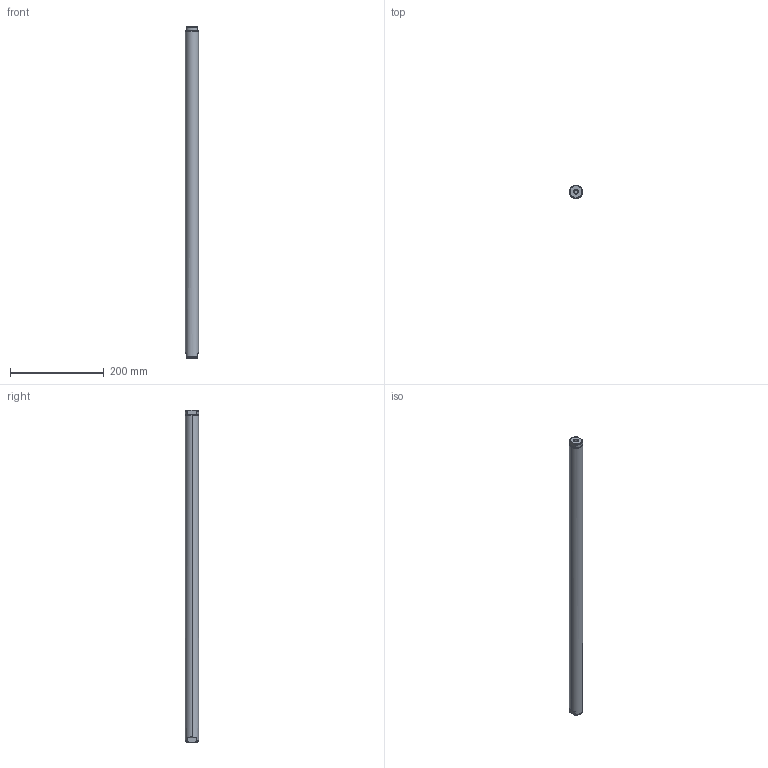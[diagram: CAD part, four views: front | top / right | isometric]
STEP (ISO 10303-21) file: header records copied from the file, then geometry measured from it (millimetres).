
FILE_DESCRIPTION (( 'STEP AP214' ), '1' );
FILE_NAME ('PL01-28x710!630.STEP', '2004-06-16T08:12:04', ( 'Mitarbeiter' ), ( 'Firma' ), 'SwSTEP 2.0', 'SolidWorks 2001287', '' );
FILE_SCHEMA (( 'AUTOMOTIVE_DESIGN' ));
Length unit declared in the file: millimetre
Products named in the file (1): PL01-28x710!630
Bounding box: 28 x 28 x 710 mm (x, y, z)
Volume: 433784.2 mm3; surface area: 64411.7 mm2
Topology: 1 solids, 1 shells, 41 faces, 104 edges, 68 vertices
Faces by surface type: plane 15, cylinder 10, cone 8, torus 8
Entity records: 1353 total; most frequent: CARTESIAN_POINT 374, ORIENTED_EDGE 208, DIRECTION 192, EDGE_CURVE 104, AXIS2_PLACEMENT_3D 78, VERTEX_POINT 68, EDGE_LOOP 44, ADVANCED_FACE 41
